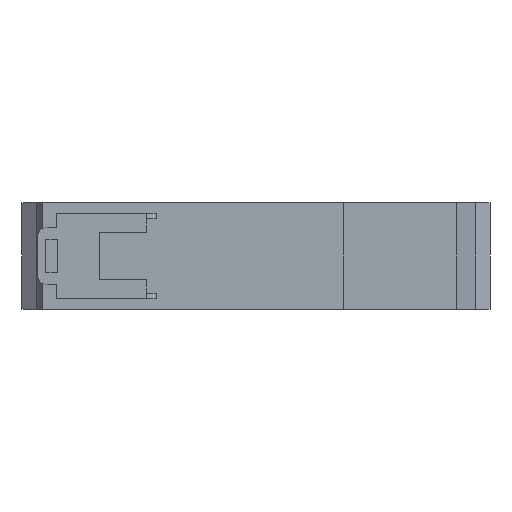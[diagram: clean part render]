
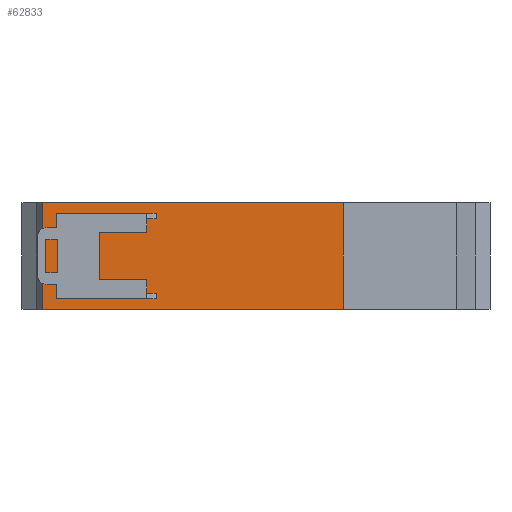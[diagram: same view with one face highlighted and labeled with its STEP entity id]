
A CAD part, front view. The second image highlights one B-rep face of the part: STEP entity #62833.
In plain terms, the highlighted planar face has unit normal (0, -1, 0).
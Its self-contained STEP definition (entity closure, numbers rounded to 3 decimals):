
#339 = ORIENTED_EDGE ( 'NONE', *, *, #8910, .T. ) ;
#1367 = DIRECTION ( 'NONE',  ( 0., 0., 1. ) ) ;
#2000 = CARTESIAN_POINT ( 'NONE',  ( -44.24, -107.23, 9. ) ) ;
#2870 = VECTOR ( 'NONE', #9296, 1000. ) ;
#5092 = ORIENTED_EDGE ( 'NONE', *, *, #40816, .T. ) ;
#5245 = CARTESIAN_POINT ( 'NONE',  ( -42.256, -107.23, 3.5 ) ) ;
#5801 = LINE ( 'NONE', #58737, #39832 ) ;
#5818 = LINE ( 'NONE', #84835, #75297 ) ;
#6152 = EDGE_CURVE ( 'NONE', #80942, #36780, #37682, .T. ) ;
#6214 = LINE ( 'NONE', #11013, #34601 ) ;
#7255 = LINE ( 'NONE', #66726, #46071 ) ;
#7405 = ORIENTED_EDGE ( 'NONE', *, *, #9429, .T. ) ;
#8501 = EDGE_CURVE ( 'NONE', #77939, #52887, #69253, .T. ) ;
#8910 = EDGE_CURVE ( 'NONE', #34861, #80813, #58235, .T. ) ;
#9100 = EDGE_CURVE ( 'NONE', #18819, #53661, #23346, .T. ) ;
#9296 = DIRECTION ( 'NONE',  ( -1., 0., 0. ) ) ;
#9429 = EDGE_CURVE ( 'NONE', #50538, #80942, #85829, .T. ) ;
#9781 = CARTESIAN_POINT ( 'NONE',  ( -45.22, -107.23, 11.25 ) ) ;
#11013 = CARTESIAN_POINT ( 'NONE',  ( -42.256, -107.23, 9. ) ) ;
#12921 = DIRECTION ( 'NONE',  ( -1., 0., 0. ) ) ;
#13341 = VECTOR ( 'NONE', #77369, 1000. ) ;
#14936 = ORIENTED_EDGE ( 'NONE', *, *, #28592, .T. ) ;
#15124 = EDGE_CURVE ( 'NONE', #84092, #62518, #81007, .T. ) ;
#16097 = VECTOR ( 'NONE', #17163, 1000. ) ;
#17163 = DIRECTION ( 'NONE',  ( 0., 0., -1. ) ) ;
#17643 = CARTESIAN_POINT ( 'NONE',  ( -42.256, -107.23, -9. ) ) ;
#17775 = DIRECTION ( 'NONE',  ( 0., 1., 0. ) ) ;
#18466 = CARTESIAN_POINT ( 'NONE',  ( -42.256, -107.23, -3.5 ) ) ;
#18640 = DIRECTION ( 'NONE',  ( 0., 0., 1. ) ) ;
#18819 = VERTEX_POINT ( 'NONE', #40885 ) ;
#19432 = CARTESIAN_POINT ( 'NONE',  ( -23.145, -107.23, 5. ) ) ;
#20353 = DIRECTION ( 'NONE',  ( 0., 0., -1. ) ) ;
#20607 = EDGE_CURVE ( 'NONE', #53049, #62518, #6214, .T. ) ;
#22875 = ORIENTED_EDGE ( 'NONE', *, *, #58520, .T. ) ;
#23148 = ORIENTED_EDGE ( 'NONE', *, *, #68859, .F. ) ;
#23346 = LINE ( 'NONE', #60806, #71556 ) ;
#23456 = CARTESIAN_POINT ( 'NONE',  ( -45.22, -107.23, 11.25 ) ) ;
#23686 = LINE ( 'NONE', #29763, #79511 ) ;
#24044 = DIRECTION ( 'NONE',  ( 0., 0., -1. ) ) ;
#24043 = LINE ( 'NONE', #76144, #2870 ) ;
#24236 = CARTESIAN_POINT ( 'NONE',  ( -33.145, -107.23, 5. ) ) ;
#24275 = CARTESIAN_POINT ( 'NONE',  ( -45.22, -107.23, 11.25 ) ) ;
#24665 = ORIENTED_EDGE ( 'NONE', *, *, #28921, .T. ) ;
#24999 = CARTESIAN_POINT ( 'NONE',  ( 20.5, -107.23, -11.25 ) ) ;
#25619 = ORIENTED_EDGE ( 'NONE', *, *, #8501, .T. ) ;
#28220 = LINE ( 'NONE', #82351, #64709 ) ;
#28562 = ORIENTED_EDGE ( 'NONE', *, *, #42683, .T. ) ;
#28592 = EDGE_CURVE ( 'NONE', #52887, #38972, #28220, .T. ) ;
#28921 = EDGE_CURVE ( 'NONE', #80217, #34861, #5801, .T. ) ;
#29137 = VECTOR ( 'NONE', #76680, 1000. ) ;
#29538 = VERTEX_POINT ( 'NONE', #52450 ) ;
#29763 = CARTESIAN_POINT ( 'NONE',  ( 20.5, -107.23, 11.25 ) ) ;
#30875 = ORIENTED_EDGE ( 'NONE', *, *, #6152, .T. ) ;
#31308 = EDGE_CURVE ( 'NONE', #33285, #18819, #5818, .T. ) ;
#32104 = VECTOR ( 'NONE', #47988, 1000. ) ;
#33285 = VERTEX_POINT ( 'NONE', #18466 ) ;
#33556 = CARTESIAN_POINT ( 'NONE',  ( -45.22, -107.23, -11.25 ) ) ;
#33800 = EDGE_LOOP ( 'NONE', ( #25619, #14936, #23148, #49428 ) ) ;
#34601 = VECTOR ( 'NONE', #77868, 1000. ) ;
#34861 = VERTEX_POINT ( 'NONE', #85751 ) ;
#36430 = CARTESIAN_POINT ( 'NONE',  ( -42.256, -107.23, -9. ) ) ;
#36780 = VERTEX_POINT ( 'NONE', #52753 ) ;
#37279 = FACE_OUTER_BOUND ( 'NONE', #33800, .T. ) ;
#37682 = LINE ( 'NONE', #24236, #39529 ) ;
#38130 = VECTOR ( 'NONE', #12921, 1000. ) ;
#38796 = LINE ( 'NONE', #85670, #82405 ) ;
#38972 = VERTEX_POINT ( 'NONE', #24999 ) ;
#39529 = VECTOR ( 'NONE', #52423, 1000. ) ;
#39832 = VECTOR ( 'NONE', #24044, 1000. ) ;
#40816 = EDGE_CURVE ( 'NONE', #84092, #50538, #79389, .T. ) ;
#40885 = CARTESIAN_POINT ( 'NONE',  ( -42.036, -107.23, -3.5 ) ) ;
#41230 = DIRECTION ( 'NONE',  ( 1., 0., 0. ) ) ;
#42683 = EDGE_CURVE ( 'NONE', #36780, #80217, #7255, .T. ) ;
#44005 = DIRECTION ( 'NONE',  ( 1., 0., 0. ) ) ;
#45884 = DIRECTION ( 'NONE',  ( 1., 0., 0. ) ) ;
#46071 = VECTOR ( 'NONE', #45884, 1000. ) ;
#46202 = ORIENTED_EDGE ( 'NONE', *, *, #15124, .F. ) ;
#47988 = DIRECTION ( 'NONE',  ( -1., 0., 0. ) ) ;
#49189 = ORIENTED_EDGE ( 'NONE', *, *, #20607, .T. ) ;
#49428 = ORIENTED_EDGE ( 'NONE', *, *, #71948, .F. ) ;
#50191 = LINE ( 'NONE', #17643, #29137 ) ;
#50538 = VERTEX_POINT ( 'NONE', #60937 ) ;
#50945 = DIRECTION ( 'NONE',  ( 1., 0., 0. ) ) ;
#51306 = CARTESIAN_POINT ( 'NONE',  ( -44.24, -107.23, -9. ) ) ;
#52343 = CARTESIAN_POINT ( 'NONE',  ( -42.256, -107.23, 9. ) ) ;
#52423 = DIRECTION ( 'NONE',  ( 0., 0., -1. ) ) ;
#52450 = CARTESIAN_POINT ( 'NONE',  ( 20.5, -107.23, 11.25 ) ) ;
#52569 = ORIENTED_EDGE ( 'NONE', *, *, #9100, .T. ) ;
#52753 = CARTESIAN_POINT ( 'NONE',  ( -33.145, -107.23, -5. ) ) ;
#52887 = VERTEX_POINT ( 'NONE', #33556 ) ;
#53049 = VERTEX_POINT ( 'NONE', #5245 ) ;
#53661 = VERTEX_POINT ( 'NONE', #83099 ) ;
#54893 = CARTESIAN_POINT ( 'NONE',  ( -23.803, -107.23, -5. ) ) ;
#58235 = LINE ( 'NONE', #51306, #13341 ) ;
#58404 = ORIENTED_EDGE ( 'NONE', *, *, #59056, .T. ) ;
#58520 = EDGE_CURVE ( 'NONE', #80813, #33285, #50191, .T. ) ;
#58546 = CARTESIAN_POINT ( 'NONE',  ( -33.145, -107.23, 5. ) ) ;
#58737 = CARTESIAN_POINT ( 'NONE',  ( -23.803, -107.23, 9. ) ) ;
#59056 = EDGE_CURVE ( 'NONE', #53661, #53049, #24043, .T. ) ;
#59930 = AXIS2_PLACEMENT_3D ( 'NONE', #24275, #17775, #18640 ) ;
#60806 = CARTESIAN_POINT ( 'NONE',  ( -42.036, -107.23, 3.5 ) ) ;
#60937 = CARTESIAN_POINT ( 'NONE',  ( -23.803, -107.23, 5. ) ) ;
#62518 = VERTEX_POINT ( 'NONE', #52343 ) ;
#62833 = ADVANCED_FACE ( 'NONE', ( #37279, #63754 ), #71153, .F. ) ;
#63754 = FACE_BOUND ( 'NONE', #75630, .T. ) ;
#64423 = ORIENTED_EDGE ( 'NONE', *, *, #31308, .T. ) ;
#64709 = VECTOR ( 'NONE', #41230, 1000. ) ;
#66726 = CARTESIAN_POINT ( 'NONE',  ( -33.145, -107.23, -5. ) ) ;
#68844 = DIRECTION ( 'NONE',  ( 0., 0., -1. ) ) ;
#68859 = EDGE_CURVE ( 'NONE', #29538, #38972, #23686, .T. ) ;
#69253 = LINE ( 'NONE', #9781, #16097 ) ;
#69442 = CARTESIAN_POINT ( 'NONE',  ( -23.803, -107.23, 9. ) ) ;
#71153 = PLANE ( 'NONE',  #59930 ) ;
#71556 = VECTOR ( 'NONE', #1367, 1000. ) ;
#71948 = EDGE_CURVE ( 'NONE', #77939, #29538, #38796, .T. ) ;
#75297 = VECTOR ( 'NONE', #50945, 1000. ) ;
#75630 = EDGE_LOOP ( 'NONE', ( #58404, #49189, #46202, #5092, #7405, #30875, #28562, #24665, #339, #22875, #64423, #52569 ) ) ;
#76144 = CARTESIAN_POINT ( 'NONE',  ( -44.536, -107.23, 3.5 ) ) ;
#76680 = DIRECTION ( 'NONE',  ( 0., 0., 1. ) ) ;
#77369 = DIRECTION ( 'NONE',  ( -1., 0., 0. ) ) ;
#77868 = DIRECTION ( 'NONE',  ( 0., 0., 1. ) ) ;
#77939 = VERTEX_POINT ( 'NONE', #23456 ) ;
#78950 = CARTESIAN_POINT ( 'NONE',  ( -23.803, -107.23, 9. ) ) ;
#79304 = VECTOR ( 'NONE', #20353, 1000. ) ;
#79389 = LINE ( 'NONE', #78950, #79304 ) ;
#79511 = VECTOR ( 'NONE', #68844, 1000. ) ;
#80217 = VERTEX_POINT ( 'NONE', #54893 ) ;
#80813 = VERTEX_POINT ( 'NONE', #36430 ) ;
#80942 = VERTEX_POINT ( 'NONE', #58546 ) ;
#81007 = LINE ( 'NONE', #2000, #32104 ) ;
#82351 = CARTESIAN_POINT ( 'NONE',  ( -45.22, -107.23, -11.25 ) ) ;
#82405 = VECTOR ( 'NONE', #44005, 1000. ) ;
#83099 = CARTESIAN_POINT ( 'NONE',  ( -42.036, -107.23, 3.5 ) ) ;
#84092 = VERTEX_POINT ( 'NONE', #69442 ) ;
#84835 = CARTESIAN_POINT ( 'NONE',  ( -44.536, -107.23, -3.5 ) ) ;
#85670 = CARTESIAN_POINT ( 'NONE',  ( -45.22, -107.23, 11.25 ) ) ;
#85751 = CARTESIAN_POINT ( 'NONE',  ( -23.803, -107.23, -9. ) ) ;
#85829 = LINE ( 'NONE', #19432, #38130 ) ;
